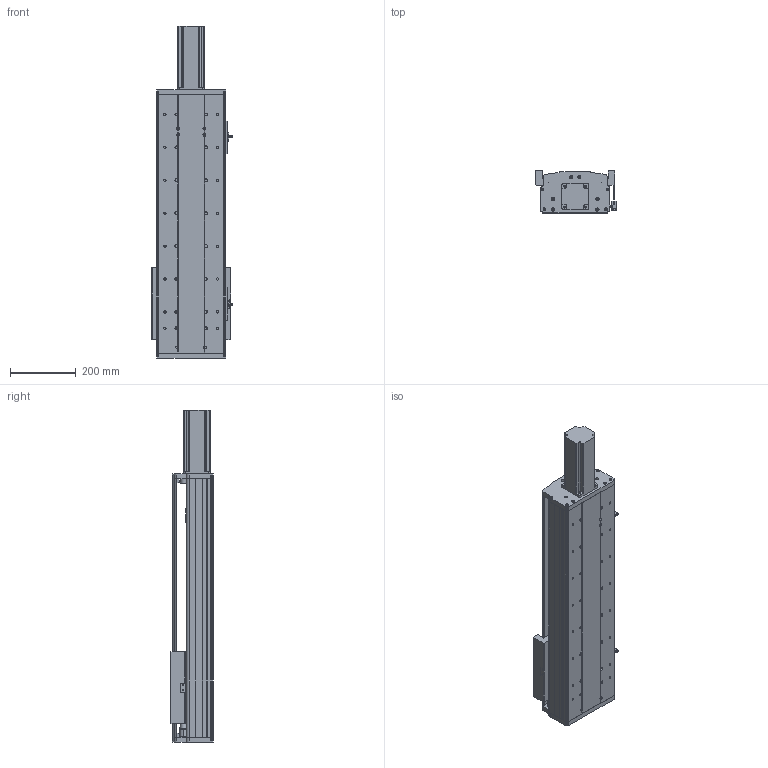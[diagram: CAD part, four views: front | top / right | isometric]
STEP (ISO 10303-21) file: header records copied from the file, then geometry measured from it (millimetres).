
FILE_DESCRIPTION (( 'STEP AP203' ), '1' );
FILE_NAME ('LT210S-2510-S500-P1000.STEP', '2022-08-29T00:27:35', ( '' ), ( '' ), 'SwSTEP 2.0', 'SolidWorks 2020', '' );
FILE_SCHEMA (( 'CONFIG_CONTROL_DESIGN' ));
Length unit declared in the file: millimetre
Products named in the file (22): 肣杶20-9; deep groove ball bearings gb_Rolling bearings 6004 GB 276-94; 粣創揤遠6004; 阻尼圈15（大）; 阻尼圈加长件; LT210S-裔啣盓傅沭; 佪裝蹟譫SFS2510; LT210S-25佪裝嘐隅釱; M20-1.5佪裝坶踡蹟譫; 1000W萇儂; LT210S-25萵盓傅釱; LT210S-25翋盓傅釱; 联轴器17转19 外径50长55; LT210-B-覜茼え; LT210S-P750-P1000籵蚚; OMRON-EESX672-嫖萇羲壽; LT210S-裔啣; LT210-B-T倛羞; LT210S-2510-S500-倰第; LT210S-綴傷啣; LT210S-25賑怢; LT210S-2510-S500-P1000
Assembly tree (31 placements, depth 2):
  LT210S-2510-S500-P1000
    LT210S-2510-S500-倰第
    LT210S-25萵盓傅釱
    肣杶20-9  x2
    LT210S-P750-P1000籵蚚
    LT210S-25賑怢
    LT210S-綴傷啣
    阻尼圈15（大）  x4
    阻尼圈加长件  x2
    LT210S-裔啣盓傅沭  x2
    LT210S-裔啣
    deep groove ball bearings gb_Rolling bearings 6004 GB 276-94  x3
    LT210S-25佪裝嘐隅釱
    佪裝蹟譫SFS2510
    M20-1.5佪裝坶踡蹟譫
    LT210-B-覜茼え
    LT210-B-T倛羞  x2
    OMRON-EESX672-嫖萇羲壽  x2
    粣創揤遠6004
    LT210S-25翋盓傅釱
    联轴器17转19 外径50长55
    1000W萇儂
Bounding box: 244.7 x 130 x 1009 mm (x, y, z)
Volume: 8500692.4 mm3; surface area: 2072813.1 mm2
Topology: 31 solids, 31 shells, 1945 faces, 5887 edges, 3819 vertices
Faces by surface type: cylinder 890, plane 630, torus 168, cone 161, sphere 96
Entity records: 54354 total; most frequent: CARTESIAN_POINT 10642, DIRECTION 8918, ORIENTED_EDGE 8394, EDGE_CURVE 4197, AXIS2_PLACEMENT_3D 3401, VERTEX_POINT 2773, LINE 2116, VECTOR 2116
